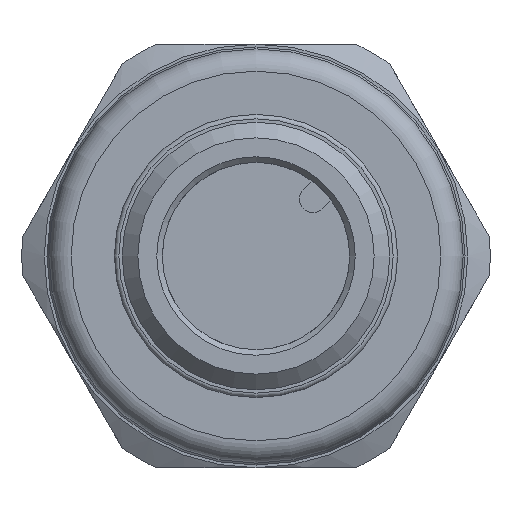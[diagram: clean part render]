
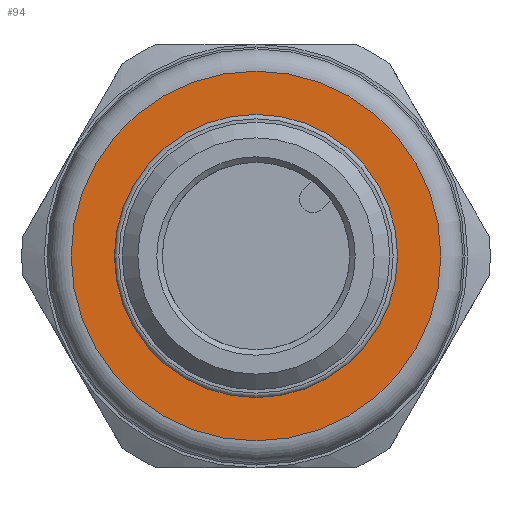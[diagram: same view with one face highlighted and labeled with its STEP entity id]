
A CAD part, left-side view. The second image highlights one B-rep face of the part: STEP entity #94.
In plain terms, the highlighted planar face has unit normal (-1, 0, 0).
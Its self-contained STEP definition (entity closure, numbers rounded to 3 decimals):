
#94 = ADVANCED_FACE( '', ( #189, #190 ), #191, .F. );
#189 = FACE_OUTER_BOUND( '', #360, .T. );
#190 = FACE_BOUND( '', #361, .T. );
#191 = PLANE( '', #362 );
#360 = EDGE_LOOP( '', ( #619 ) );
#361 = EDGE_LOOP( '', ( #620 ) );
#362 = AXIS2_PLACEMENT_3D( '', #621, #622, #623 );
#619 = ORIENTED_EDGE( '', *, *, #974, .F. );
#620 = ORIENTED_EDGE( '', *, *, #975, .T. );
#621 = CARTESIAN_POINT( '', ( 15.9, 6.35, 0. ) );
#622 = DIRECTION( '', ( 1., 0., 0. ) );
#623 = DIRECTION( '', ( 0., 0., -1. ) );
#974 = EDGE_CURVE( '', #1140, #1140, #1141, .T. );
#975 = EDGE_CURVE( '', #1142, #1142, #1143, .T. );
#1140 = VERTEX_POINT( '', #1590 );
#1141 = CIRCLE( '', #1591, 8.29 );
#1142 = VERTEX_POINT( '', #1592 );
#1143 = CIRCLE( '', #1593, 6.35 );
#1590 = CARTESIAN_POINT( '', ( 15.9, 0., -8.29 ) );
#1591 = AXIS2_PLACEMENT_3D( '', #1824, #1825, #1826 );
#1592 = CARTESIAN_POINT( '', ( 15.9, 0., -6.35 ) );
#1593 = AXIS2_PLACEMENT_3D( '', #1827, #1828, #1829 );
#1824 = CARTESIAN_POINT( '', ( 15.9, 0., 0. ) );
#1825 = DIRECTION( '', ( 1., 0., 0. ) );
#1826 = DIRECTION( '', ( 0., 0., -1. ) );
#1827 = CARTESIAN_POINT( '', ( 15.9, 0., 0. ) );
#1828 = DIRECTION( '', ( 1., 0., 0. ) );
#1829 = DIRECTION( '', ( 0., 0., -1. ) );
